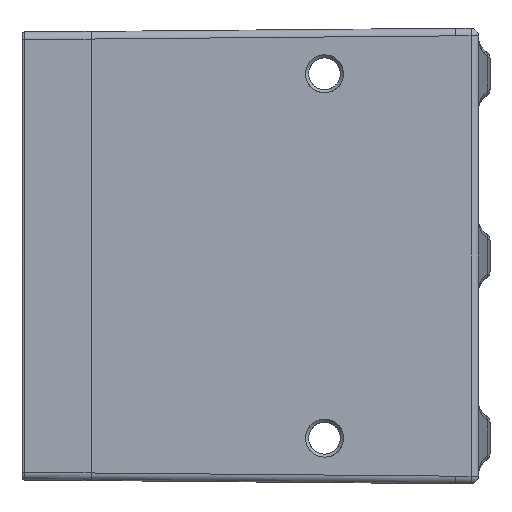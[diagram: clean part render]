
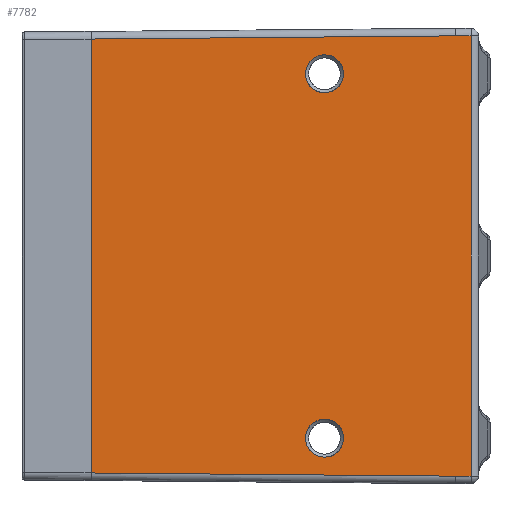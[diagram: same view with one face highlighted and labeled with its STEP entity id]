
A CAD part, left-side view. The second image highlights one B-rep face of the part: STEP entity #7782.
In plain terms, the highlighted planar face has unit normal (-1, 0, 0).
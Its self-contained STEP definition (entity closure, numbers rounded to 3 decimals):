
#565=PLANE('',#15637);
#1494=B_SPLINE_CURVE_WITH_KNOTS('',3,(#22639,#22640,#22641,#22642,#22643,
#22644,#22645,#22646,#22647,#22648,#22649,#22650,#22651,#22652,#22653,#22654),
 .UNSPECIFIED.,.T.,.F.,(1,3,3,3,3,3,3,1),(-0.2,0.,0.2,0.4,0.6,0.8,1.,1.2),
 .UNSPECIFIED.);
#1495=B_SPLINE_CURVE_WITH_KNOTS('',3,(#22656,#22657,#22658,#22659,#22660,
#22661,#22662,#22663,#22664,#22665,#22666,#22667,#22668,#22669,#22670,#22671),
 .UNSPECIFIED.,.T.,.F.,(1,3,3,3,3,3,3,1),(-0.2,0.,0.2,0.4,0.6,0.8,1.,1.2),
 .UNSPECIFIED.);
#1496=B_SPLINE_CURVE_WITH_KNOTS('',3,(#22676,#22677,#22678,#22679),.UNSPECIFIED.,
 .F.,.F.,(4,4),(0.,1.),.UNSPECIFIED.);
#1497=B_SPLINE_CURVE_WITH_KNOTS('',3,(#22681,#22682,#22683,#22684),.UNSPECIFIED.,
 .F.,.F.,(4,4),(0.,1.),.UNSPECIFIED.);
#1498=B_SPLINE_CURVE_WITH_KNOTS('',3,(#22688,#22689,#22690,#22691),.UNSPECIFIED.,
 .F.,.F.,(4,4),(0.,1.),.UNSPECIFIED.);
#1499=B_SPLINE_CURVE_WITH_KNOTS('',3,(#22693,#22694,#22695,#22696),.UNSPECIFIED.,
 .F.,.F.,(4,4),(0.,1.),.UNSPECIFIED.);
#2271=LINE('',#22673,#3187);
#2272=LINE('',#22686,#3188);
#3187=VECTOR('',#16893,1.);
#3188=VECTOR('',#16894,1.);
#7782=ADVANCED_FACE('',(#8064,#8065,#8066),#565,.T.);
#8064=FACE_BOUND('',#8310,.T.);
#8065=FACE_BOUND('',#8311,.T.);
#8066=FACE_BOUND('',#8312,.T.);
#8310=EDGE_LOOP('',(#9598));
#8311=EDGE_LOOP('',(#9599));
#8312=EDGE_LOOP('',(#9600,#9601,#9602,#9603,#9604,#9605));
#9598=ORIENTED_EDGE('',*,*,#13990,.T.);
#9599=ORIENTED_EDGE('',*,*,#13991,.T.);
#9600=ORIENTED_EDGE('',*,*,#13992,.T.);
#9601=ORIENTED_EDGE('',*,*,#13993,.T.);
#9602=ORIENTED_EDGE('',*,*,#13994,.T.);
#9603=ORIENTED_EDGE('',*,*,#13995,.T.);
#9604=ORIENTED_EDGE('',*,*,#13996,.T.);
#9605=ORIENTED_EDGE('',*,*,#13997,.T.);
#11795=VERTEX_POINT('',#22655);
#11796=VERTEX_POINT('',#22672);
#11797=VERTEX_POINT('',#22674);
#11798=VERTEX_POINT('',#22675);
#11799=VERTEX_POINT('',#22680);
#11800=VERTEX_POINT('',#22685);
#11801=VERTEX_POINT('',#22687);
#11802=VERTEX_POINT('',#22692);
#13990=EDGE_CURVE('',#11795,#11795,#1494,.T.);
#13991=EDGE_CURVE('',#11796,#11796,#1495,.T.);
#13992=EDGE_CURVE('',#11797,#11798,#2271,.T.);
#13993=EDGE_CURVE('',#11798,#11799,#1496,.T.);
#13994=EDGE_CURVE('',#11799,#11800,#1497,.T.);
#13995=EDGE_CURVE('',#11800,#11801,#2272,.T.);
#13996=EDGE_CURVE('',#11801,#11802,#1498,.T.);
#13997=EDGE_CURVE('',#11802,#11797,#1499,.T.);
#15637=AXIS2_PLACEMENT_3D('',#22697,#16895,#16896);
#16893=DIRECTION('',(0.,0.,1.));
#16894=DIRECTION('',(0.,0.,-1.));
#16895=DIRECTION('',(-1.,0.,0.));
#16896=DIRECTION('',(0.,-1.,0.));
#22639=CARTESIAN_POINT('',(-19.754,24.36,8.5));
#22640=CARTESIAN_POINT('',(-19.754,23.663,8.5));
#22641=CARTESIAN_POINT('',(-19.754,23.079,8.254));
#22642=CARTESIAN_POINT('',(-19.754,22.592,7.768));
#22643=CARTESIAN_POINT('',(-19.754,22.105,7.281));
#22644=CARTESIAN_POINT('',(-19.754,21.86,6.688));
#22645=CARTESIAN_POINT('',(-19.754,21.86,6.));
#22646=CARTESIAN_POINT('',(-19.754,21.859,4.623));
#22647=CARTESIAN_POINT('',(-19.754,22.983,3.5));
#22648=CARTESIAN_POINT('',(-19.754,24.36,3.5));
#22649=CARTESIAN_POINT('',(-19.754,25.737,3.5));
#22650=CARTESIAN_POINT('',(-19.754,26.859,4.623));
#22651=CARTESIAN_POINT('',(-19.754,26.86,6.));
#22652=CARTESIAN_POINT('',(-19.754,26.86,7.377));
#22653=CARTESIAN_POINT('',(-19.754,25.729,8.501));
#22654=CARTESIAN_POINT('',(-19.754,24.36,8.5));
#22655=CARTESIAN_POINT('',(-19.754,24.36,8.5));
#22656=CARTESIAN_POINT('',(-19.754,24.36,56.5));
#22657=CARTESIAN_POINT('',(-19.754,23.663,56.5));
#22658=CARTESIAN_POINT('',(-19.754,23.079,56.254));
#22659=CARTESIAN_POINT('',(-19.754,22.592,55.768));
#22660=CARTESIAN_POINT('',(-19.754,22.105,55.281));
#22661=CARTESIAN_POINT('',(-19.754,21.86,54.688));
#22662=CARTESIAN_POINT('',(-19.754,21.86,54.));
#22663=CARTESIAN_POINT('',(-19.754,21.859,52.623));
#22664=CARTESIAN_POINT('',(-19.754,22.983,51.5));
#22665=CARTESIAN_POINT('',(-19.754,24.36,51.5));
#22666=CARTESIAN_POINT('',(-19.754,25.737,51.5));
#22667=CARTESIAN_POINT('',(-19.754,26.859,52.623));
#22668=CARTESIAN_POINT('',(-19.754,26.86,54.));
#22669=CARTESIAN_POINT('',(-19.754,26.86,55.377));
#22670=CARTESIAN_POINT('',(-19.754,25.729,56.501));
#22671=CARTESIAN_POINT('',(-19.754,24.36,56.5));
#22672=CARTESIAN_POINT('',(-19.754,24.36,56.5));
#22673=CARTESIAN_POINT('',(-19.754,5.06,30.));
#22674=CARTESIAN_POINT('',(-19.754,5.06,1.017));
#22675=CARTESIAN_POINT('',(-19.754,5.06,58.983));
#22676=CARTESIAN_POINT('',(-19.754,5.06,58.983));
#22677=CARTESIAN_POINT('',(-19.754,5.726,58.988));
#22678=CARTESIAN_POINT('',(-19.754,6.393,58.994));
#22679=CARTESIAN_POINT('',(-19.754,7.06,59.));
#22680=CARTESIAN_POINT('',(-19.754,7.06,59.));
#22681=CARTESIAN_POINT('',(-19.754,7.06,59.));
#22682=CARTESIAN_POINT('',(-19.754,23.057,58.86));
#22683=CARTESIAN_POINT('',(-19.754,39.055,58.721));
#22684=CARTESIAN_POINT('',(-19.754,55.053,58.581));
#22685=CARTESIAN_POINT('',(-19.754,55.053,58.581));
#22686=CARTESIAN_POINT('',(-19.754,55.053,30.));
#22687=CARTESIAN_POINT('',(-19.754,55.053,1.419));
#22688=CARTESIAN_POINT('',(-19.754,55.053,1.419));
#22689=CARTESIAN_POINT('',(-19.754,39.055,1.279));
#22690=CARTESIAN_POINT('',(-19.754,23.057,1.14));
#22691=CARTESIAN_POINT('',(-19.754,7.06,1.));
#22692=CARTESIAN_POINT('',(-19.754,7.06,1.));
#22693=CARTESIAN_POINT('',(-19.754,7.06,1.));
#22694=CARTESIAN_POINT('',(-19.754,6.393,1.006));
#22695=CARTESIAN_POINT('',(-19.754,5.726,1.012));
#22696=CARTESIAN_POINT('',(-19.754,5.06,1.017));
#22697=CARTESIAN_POINT('',(-19.754,55.053,0.652));
